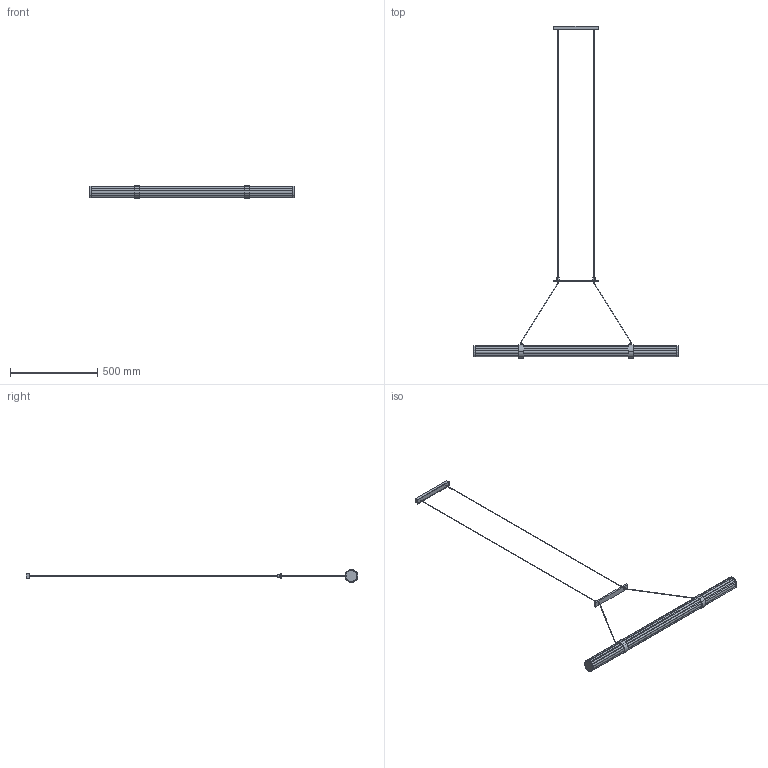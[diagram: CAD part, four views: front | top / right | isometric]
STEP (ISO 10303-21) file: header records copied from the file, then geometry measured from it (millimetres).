
FILE_DESCRIPTION (( 'STEP AP214' ), '1' );
FILE_NAME ('C1314.STEP', '2023-07-20T12:00:10', ( '' ), ( '' ), 'SwSTEP 2.0', 'SolidWorks 2018', '' );
FILE_SCHEMA (( 'AUTOMOTIVE_DESIGN' ));
Length unit declared in the file: millimetre
Products named in the file (1): C1314
Bounding box: 1176 x 1907.5 x 75 mm (x, y, z)
Volume: 4241397.9 mm3; surface area: 461042.1 mm2
Topology: 12 solids, 12 shells, 222 faces, 539 edges, 349 vertices
Faces by surface type: cylinder 154, plane 52, cone 8, torus 8
Entity records: 7203 total; most frequent: CARTESIAN_POINT 1575, DIRECTION 1270, ORIENTED_EDGE 1078, EDGE_CURVE 539, AXIS2_PLACEMENT_3D 528, VERTEX_POINT 349, CIRCLE 305, EDGE_LOOP 246
